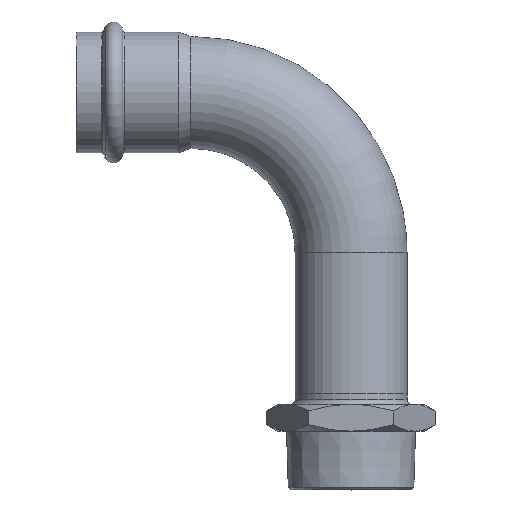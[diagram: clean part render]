
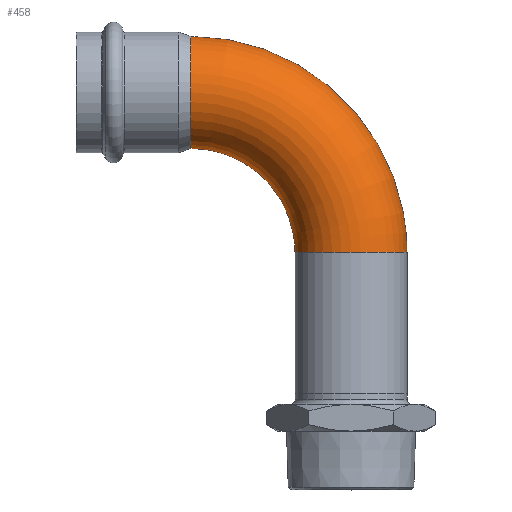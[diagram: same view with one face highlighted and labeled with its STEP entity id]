
A CAD part, top view. The second image highlights one B-rep face of the part: STEP entity #458.
In plain terms, the highlighted toroidal (fillet/blend) face has major radius 60 mm and minor radius 21 mm.
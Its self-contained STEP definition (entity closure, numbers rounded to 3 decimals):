
#427=CARTESIAN_POINT('',(60.,-60.,-21.0));
#428=VERTEX_POINT('',#427);
#429=CARTESIAN_POINT('',(60.,-60.,0.0));
#430=DIRECTION('',(0.0,1.0,0.0));
#431=DIRECTION('',(0.0,0.0,1.0));
#432=AXIS2_PLACEMENT_3D('',#429,#430,#431);
#433=CIRCLE('',#432,21.0);
#434=EDGE_CURVE('',#428,#428,#433,.T.);
#439=CARTESIAN_POINT('',(0.,-60.0,0.0));
#440=DIRECTION('',(0.0,0.0,-1.0));
#441=DIRECTION('',(-1.0,0.0,0.0));
#442=AXIS2_PLACEMENT_3D('',#439,#440,#441);
#443=TOROIDAL_SURFACE('',#442,60.0,21.0);
#444=ORIENTED_EDGE('',*,*,#434,.T.);
#445=EDGE_LOOP('',(#444));
#446=FACE_OUTER_BOUND('',#445,.T.);
#447=CARTESIAN_POINT('',(0.,21.0,0.0));
#448=VERTEX_POINT('',#447);
#449=CARTESIAN_POINT('',(0.,0.,0.0));
#450=DIRECTION('',(1.0,0.0,0.0));
#451=DIRECTION('',(0.0,1.0,0.0));
#452=AXIS2_PLACEMENT_3D('',#449,#450,#451);
#453=CIRCLE('',#452,21.0);
#454=EDGE_CURVE('',#448,#448,#453,.T.);
#455=ORIENTED_EDGE('',*,*,#454,.T.);
#456=EDGE_LOOP('',(#455));
#457=FACE_BOUND('',#456,.T.);
#458=ADVANCED_FACE('',(#446,#457),#443,.T.);
